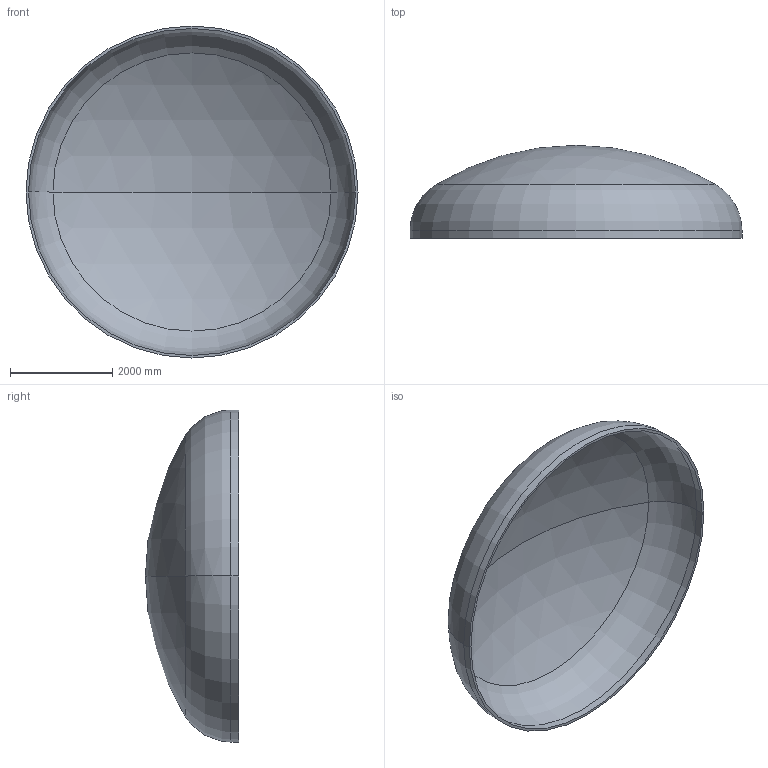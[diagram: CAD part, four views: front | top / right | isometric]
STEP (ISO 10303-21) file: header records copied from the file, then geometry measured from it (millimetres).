
FILE_DESCRIPTION (( 'STEP AP203' ), '1' );
FILE_NAME ('DIN 28013 Korbbogenform_-_Boden DIN 28013 - 6500 x 150 - I - s=50.step', '2016-07-04T10:42:24', ( '' ), ( '' ), 'SwSTEP 2.0', 'SolidWorks 2013', '' );
FILE_SCHEMA (( 'CONFIG_CONTROL_DESIGN' ));
Length unit declared in the file: millimetre
Products named in the file (1): DIN 28013 Korbbogenform_-_Boden DIN 28013 - 6500 x 150 - I - s=50
Bounding box: 6500 x 1822.29 x 6500 mm (x, y, z)
Volume: 2426197230 mm3; surface area: 98066251.8 mm2
Topology: 1 solids, 1 shells, 13 faces, 24 edges, 14 vertices
Faces by surface type: torus 4, cylinder 4, sphere 4, plane 1
Entity records: 407 total; most frequent: DIRECTION 72, CARTESIAN_POINT 52, ORIENTED_EDGE 48, AXIS2_PLACEMENT_3D 34, EDGE_CURVE 24, CIRCLE 20, VERTEX_POINT 14, EDGE_LOOP 14
